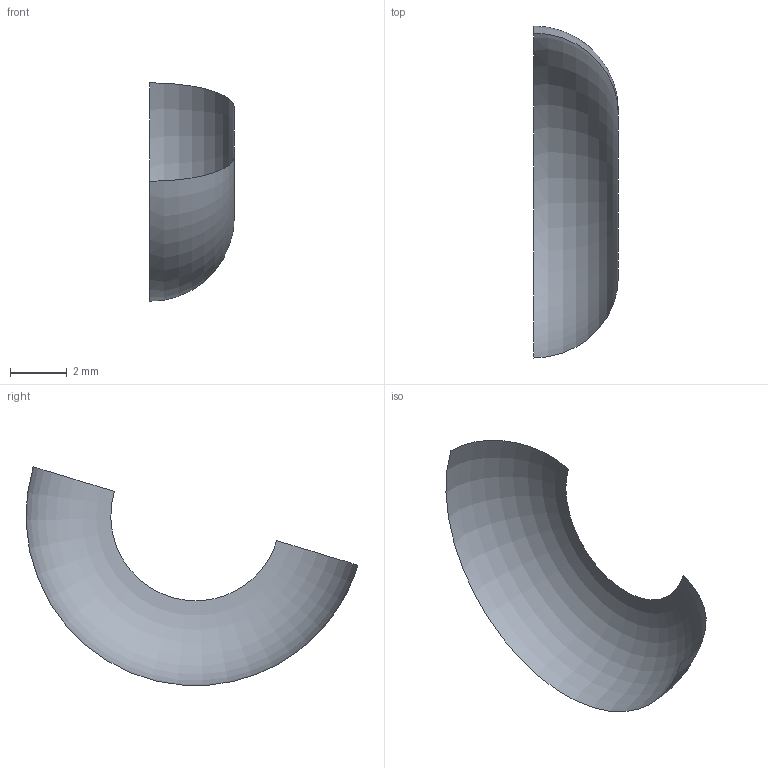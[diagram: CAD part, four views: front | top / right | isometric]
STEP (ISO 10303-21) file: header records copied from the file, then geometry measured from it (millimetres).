
FILE_DESCRIPTION(('BRL-CAD AP203 torus ordinary-boundary seam fixture'),'2;1');
FILE_NAME('ap203_torus_seam_relocation.stp','2026-07-22T00:00:00',('BRL-CAD'),('BRL-CAD'),'','','');
FILE_SCHEMA(('CONFIG_CONTROL_DESIGN'));
Length unit declared in the file: millimetre
Products named in the file (1): torus_seam_relocation
Bounding box: 3 x 11.74 x 7.72 mm (x, y, z)
Surface area: 72.7 mm2 (no closed solid volume)
Topology: 0 solids, 1 shells, 1 faces, 4 edges, 4 vertices
Faces by surface type: torus 1
Entity records: 58 total; most frequent: CARTESIAN_POINT 15, DIRECTION 6, VERTEX_POINT 4, EDGE_CURVE 4, ORIENTED_EDGE 4, AXIS2_PLACEMENT_3D 3, CIRCLE 2, TOROIDAL_SURFACE 1
